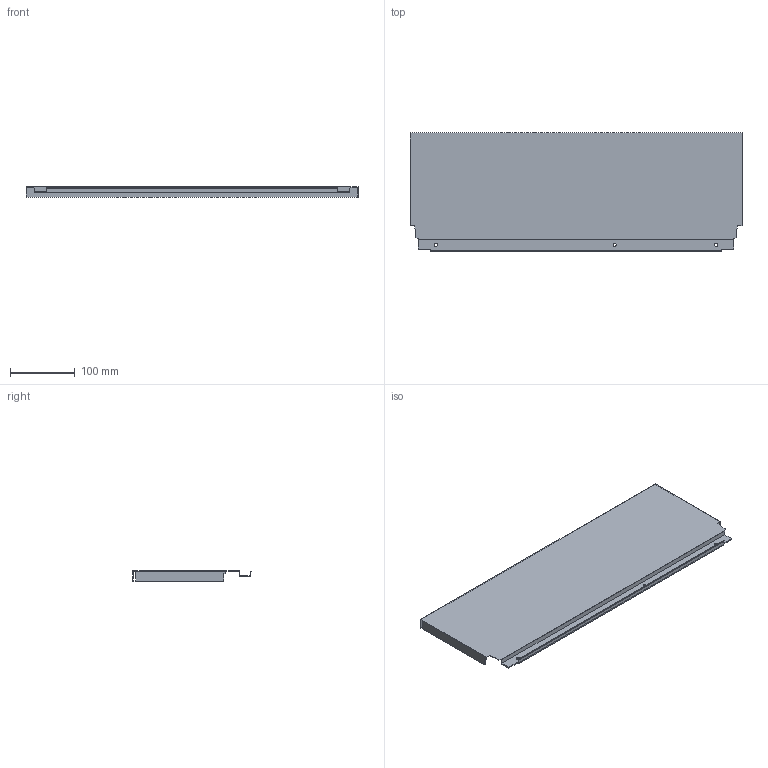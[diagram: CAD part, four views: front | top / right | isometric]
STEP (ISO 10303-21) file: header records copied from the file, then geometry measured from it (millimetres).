
FILE_DESCRIPTION (( 'STEP AP214' ), '1' );
FILE_NAME ('_DWD_XP Stahlrückwand_H182_KAB600_S18.step', '2010-07-08T12:57:55', ( 'grass' ), ( '' ), 'SwSTEP 2.0', 'SolidWorks 2010', '' );
FILE_SCHEMA (( 'AUTOMOTIVE_DESIGN' ));
Length unit declared in the file: millimetre
Products named in the file (1): _DWD_XP Stahlrückwand_H182_KAB600_S18
Bounding box: 513 x 182.49 x 16 mm (x, y, z)
Volume: 96794.1 mm3; surface area: 224620.4 mm2
Topology: 1 solids, 1 shells, 46 faces, 132 edges, 88 vertices
Faces by surface type: plane 40, cylinder 6
Entity records: 1534 total; most frequent: CARTESIAN_POINT 267, ORIENTED_EDGE 264, DIRECTION 238, EDGE_CURVE 132, VECTOR 120, LINE 120, VERTEX_POINT 88, AXIS2_PLACEMENT_3D 59
